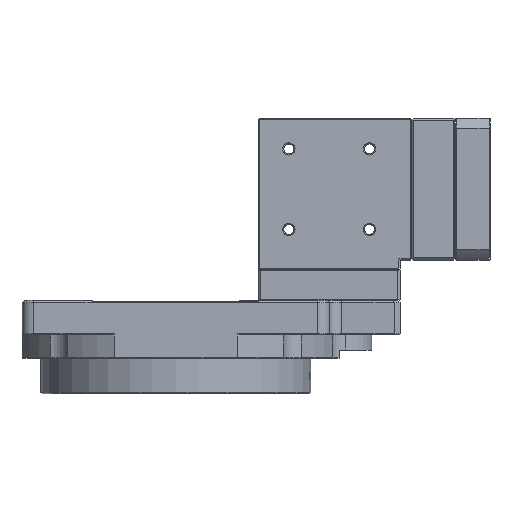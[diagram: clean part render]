
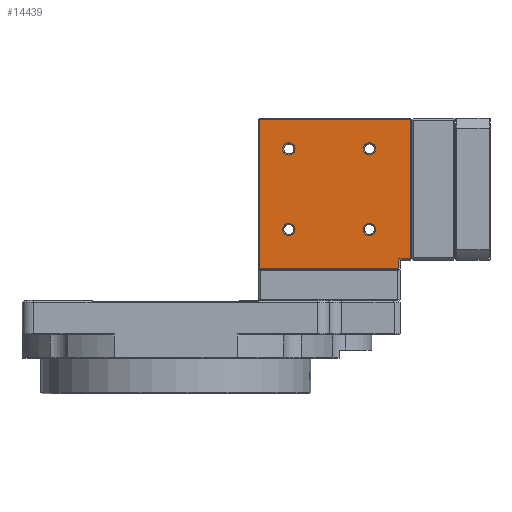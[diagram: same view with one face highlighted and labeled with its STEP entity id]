
A CAD part, left-side view. The second image highlights one B-rep face of the part: STEP entity #14439.
In plain terms, the highlighted planar face has unit normal (-1, 0, 0).
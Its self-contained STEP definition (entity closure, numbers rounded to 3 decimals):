
#13 = AXIS2_PLACEMENT_3D ( 'NONE', #13052, #19931, #1640 ) ;
#53 = DIRECTION ( 'NONE',  ( 0., 1., 0. ) ) ;
#391 = DIRECTION ( 'NONE',  ( 0., 1., 0. ) ) ;
#406 = DIRECTION ( 'NONE',  ( 0., -1., 0. ) ) ;
#567 = CARTESIAN_POINT ( 'NONE',  ( -30., -99.8, 76.5 ) ) ;
#1640 = DIRECTION ( 'NONE',  ( 0., 1., 0. ) ) ;
#2290 = CARTESIAN_POINT ( 'NONE',  ( -30., -79.2, 30. ) ) ;
#2377 = CARTESIAN_POINT ( 'NONE',  ( -30., -99.8, 77. ) ) ;
#2458 = DIRECTION ( 'NONE',  ( 0., 1., 0. ) ) ;
#2699 = EDGE_LOOP ( 'NONE', ( #17598, #14744 ) ) ;
#2714 = DIRECTION ( 'NONE',  ( 1., 0., 0. ) ) ;
#3576 = LINE ( 'NONE', #21336, #3905 ) ;
#3757 = LINE ( 'NONE', #7992, #6672 ) ;
#3905 = VECTOR ( 'NONE', #13127, 1000. ) ;
#4063 = VERTEX_POINT ( 'NONE', #22899 ) ;
#4441 = CARTESIAN_POINT ( 'NONE',  ( -30., -47.8, 30. ) ) ;
#4504 = CARTESIAN_POINT ( 'NONE',  ( -30., -79.2, 64. ) ) ;
#4734 = CIRCLE ( 'NONE', #19565, 2.6 ) ;
#4744 = PLANE ( 'NONE',  #24525 ) ;
#5010 = FACE_BOUND ( 'NONE', #2699, .T. ) ;
#5206 = EDGE_CURVE ( 'NONE', #15760, #25074, #17625, .T. ) ;
#5245 = EDGE_CURVE ( 'NONE', #5959, #18349, #13820, .T. ) ;
#5603 = EDGE_LOOP ( 'NONE', ( #23031, #23712 ) ) ;
#5959 = VERTEX_POINT ( 'NONE', #7374 ) ;
#6051 = EDGE_CURVE ( 'NONE', #19613, #16126, #25912, .T. ) ;
#6143 = DIRECTION ( 'NONE',  ( 0., 1., 0. ) ) ;
#6469 = ORIENTED_EDGE ( 'NONE', *, *, #7689, .T. ) ;
#6671 = ORIENTED_EDGE ( 'NONE', *, *, #10053, .T. ) ;
#6672 = VECTOR ( 'NONE', #11843, 1000. ) ;
#6865 = FACE_BOUND ( 'NONE', #5603, .T. ) ;
#7374 = CARTESIAN_POINT ( 'NONE',  ( -30., -45.2, 64. ) ) ;
#7537 = VECTOR ( 'NONE', #25234, 1000. ) ;
#7689 = EDGE_CURVE ( 'NONE', #4063, #24236, #24295, .T. ) ;
#7760 = CARTESIAN_POINT ( 'NONE',  ( -30., -94.8, 13.5 ) ) ;
#7992 = CARTESIAN_POINT ( 'NONE',  ( -30., -94.3, 17. ) ) ;
#8509 = ORIENTED_EDGE ( 'NONE', *, *, #5245, .T. ) ;
#9030 = CARTESIAN_POINT ( 'NONE',  ( -30., -99.3, 17.5 ) ) ;
#9585 = VERTEX_POINT ( 'NONE', #2290 ) ;
#9662 = EDGE_LOOP ( 'NONE', ( #10940, #23375 ) ) ;
#9767 = VERTEX_POINT ( 'NONE', #9030 ) ;
#10053 = EDGE_CURVE ( 'NONE', #10435, #9767, #12598, .T. ) ;
#10435 = VERTEX_POINT ( 'NONE', #22358 ) ;
#10557 = DIRECTION ( 'NONE',  ( 1., 0., 0. ) ) ;
#10940 = ORIENTED_EDGE ( 'NONE', *, *, #24991, .T. ) ;
#11307 = VERTEX_POINT ( 'NONE', #4504 ) ;
#11807 = CARTESIAN_POINT ( 'NONE',  ( -30., -84.4, 64. ) ) ;
#11843 = DIRECTION ( 'NONE',  ( 0., 0., 1. ) ) ;
#11869 = CIRCLE ( 'NONE', #13, 2.6 ) ;
#11877 = DIRECTION ( 'NONE',  ( 0., -1., 0. ) ) ;
#12589 = CARTESIAN_POINT ( 'NONE',  ( -30., -81.8, 30. ) ) ;
#12598 = LINE ( 'NONE', #22523, #23937 ) ;
#12947 = EDGE_CURVE ( 'NONE', #9767, #4063, #3576, .T. ) ;
#13052 = CARTESIAN_POINT ( 'NONE',  ( -30., -81.8, 64. ) ) ;
#13104 = DIRECTION ( 'NONE',  ( 1., 0., 0. ) ) ;
#13127 = DIRECTION ( 'NONE',  ( 0., 0., 1. ) ) ;
#13383 = ORIENTED_EDGE ( 'NONE', *, *, #22956, .T. ) ;
#13386 = VECTOR ( 'NONE', #11877, 1000. ) ;
#13648 = EDGE_LOOP ( 'NONE', ( #8509, #14393 ) ) ;
#13820 = CIRCLE ( 'NONE', #21792, 2.6 ) ;
#14393 = ORIENTED_EDGE ( 'NONE', *, *, #18530, .T. ) ;
#14439 = ADVANCED_FACE ( 'NONE', ( #14814, #25020, #6865, #5010, #23166 ), #4744, .T. ) ;
#14455 = DIRECTION ( 'NONE',  ( 0., 1., 0. ) ) ;
#14701 = CARTESIAN_POINT ( 'NONE',  ( -30., -81.8, 30. ) ) ;
#14744 = ORIENTED_EDGE ( 'NONE', *, *, #19118, .T. ) ;
#14814 = FACE_BOUND ( 'NONE', #9662, .T. ) ;
#14861 = EDGE_CURVE ( 'NONE', #17693, #11307, #25414, .T. ) ;
#15258 = AXIS2_PLACEMENT_3D ( 'NONE', #22603, #10557, #18653 ) ;
#15708 = EDGE_CURVE ( 'NONE', #9585, #22089, #24107, .T. ) ;
#15760 = VERTEX_POINT ( 'NONE', #19462 ) ;
#15871 = AXIS2_PLACEMENT_3D ( 'NONE', #20274, #16031, #20143 ) ;
#15905 = CARTESIAN_POINT ( 'NONE',  ( -30., -47.8, 64. ) ) ;
#16031 = DIRECTION ( 'NONE',  ( 1., 0., 0. ) ) ;
#16126 = VERTEX_POINT ( 'NONE', #20537 ) ;
#16818 = DIRECTION ( 'NONE',  ( 1., 0., 0. ) ) ;
#17147 = CARTESIAN_POINT ( 'NONE',  ( -30., -35.3, 13. ) ) ;
#17598 = ORIENTED_EDGE ( 'NONE', *, *, #15708, .T. ) ;
#17625 = CIRCLE ( 'NONE', #15871, 2.6 ) ;
#17693 = VERTEX_POINT ( 'NONE', #11807 ) ;
#17945 = CARTESIAN_POINT ( 'NONE',  ( -30., -45.2, 30. ) ) ;
#18007 = CARTESIAN_POINT ( 'NONE',  ( -30., -35.3, 76.5 ) ) ;
#18199 = EDGE_CURVE ( 'NONE', #25074, #15760, #18308, .T. ) ;
#18297 = EDGE_LOOP ( 'NONE', ( #22311, #23293, #6671, #25803, #6469, #13383 ) ) ;
#18308 = CIRCLE ( 'NONE', #18731, 2.6 ) ;
#18340 = CIRCLE ( 'NONE', #22986, 2.6 ) ;
#18349 = VERTEX_POINT ( 'NONE', #19407 ) ;
#18530 = EDGE_CURVE ( 'NONE', #18349, #5959, #4734, .T. ) ;
#18653 = DIRECTION ( 'NONE',  ( 0., 1., 0. ) ) ;
#18731 = AXIS2_PLACEMENT_3D ( 'NONE', #4441, #2714, #2458 ) ;
#19118 = EDGE_CURVE ( 'NONE', #22089, #9585, #18340, .T. ) ;
#19407 = CARTESIAN_POINT ( 'NONE',  ( -30., -50.4, 64. ) ) ;
#19462 = CARTESIAN_POINT ( 'NONE',  ( -30., -50.4, 30. ) ) ;
#19565 = AXIS2_PLACEMENT_3D ( 'NONE', #19804, #24296, #6143 ) ;
#19613 = VERTEX_POINT ( 'NONE', #22042 ) ;
#19804 = CARTESIAN_POINT ( 'NONE',  ( -30., -47.8, 64. ) ) ;
#19931 = DIRECTION ( 'NONE',  ( 1., 0., 0. ) ) ;
#20143 = DIRECTION ( 'NONE',  ( 0., 1., 0. ) ) ;
#20274 = CARTESIAN_POINT ( 'NONE',  ( -30., -47.8, 30. ) ) ;
#20537 = CARTESIAN_POINT ( 'NONE',  ( -30., -94.3, 13.5 ) ) ;
#20789 = DIRECTION ( 'NONE',  ( 0., 1., 0. ) ) ;
#20908 = DIRECTION ( 'NONE',  ( -1., 0., 0. ) ) ;
#21336 = CARTESIAN_POINT ( 'NONE',  ( -30., -99.3, 77. ) ) ;
#21792 = AXIS2_PLACEMENT_3D ( 'NONE', #15905, #23853, #21988 ) ;
#21988 = DIRECTION ( 'NONE',  ( 0., 1., 0. ) ) ;
#22042 = CARTESIAN_POINT ( 'NONE',  ( -30., -35.3, 13.5 ) ) ;
#22089 = VERTEX_POINT ( 'NONE', #22908 ) ;
#22311 = ORIENTED_EDGE ( 'NONE', *, *, #6051, .T. ) ;
#22358 = CARTESIAN_POINT ( 'NONE',  ( -30., -94.3, 17.5 ) ) ;
#22523 = CARTESIAN_POINT ( 'NONE',  ( -30., -99.8, 17.5 ) ) ;
#22603 = CARTESIAN_POINT ( 'NONE',  ( -30., -81.8, 64. ) ) ;
#22826 = AXIS2_PLACEMENT_3D ( 'NONE', #12589, #13104, #20789 ) ;
#22838 = LINE ( 'NONE', #17147, #7537 ) ;
#22899 = CARTESIAN_POINT ( 'NONE',  ( -30., -99.3, 76.5 ) ) ;
#22908 = CARTESIAN_POINT ( 'NONE',  ( -30., -84.4, 30. ) ) ;
#22956 = EDGE_CURVE ( 'NONE', #24236, #19613, #22838, .T. ) ;
#22986 = AXIS2_PLACEMENT_3D ( 'NONE', #14701, #16818, #14455 ) ;
#23031 = ORIENTED_EDGE ( 'NONE', *, *, #18199, .T. ) ;
#23156 = EDGE_CURVE ( 'NONE', #16126, #10435, #3757, .T. ) ;
#23166 = FACE_OUTER_BOUND ( 'NONE', #18297, .T. ) ;
#23293 = ORIENTED_EDGE ( 'NONE', *, *, #23156, .T. ) ;
#23375 = ORIENTED_EDGE ( 'NONE', *, *, #14861, .T. ) ;
#23712 = ORIENTED_EDGE ( 'NONE', *, *, #5206, .T. ) ;
#23853 = DIRECTION ( 'NONE',  ( 1., 0., 0. ) ) ;
#23937 = VECTOR ( 'NONE', #406, 1000. ) ;
#24107 = CIRCLE ( 'NONE', #22826, 2.6 ) ;
#24236 = VERTEX_POINT ( 'NONE', #18007 ) ;
#24295 = LINE ( 'NONE', #567, #25823 ) ;
#24296 = DIRECTION ( 'NONE',  ( 1., 0., 0. ) ) ;
#24525 = AXIS2_PLACEMENT_3D ( 'NONE', #2377, #20908, #391 ) ;
#24991 = EDGE_CURVE ( 'NONE', #11307, #17693, #11869, .T. ) ;
#25020 = FACE_BOUND ( 'NONE', #13648, .T. ) ;
#25074 = VERTEX_POINT ( 'NONE', #17945 ) ;
#25234 = DIRECTION ( 'NONE',  ( 0., 0., -1. ) ) ;
#25414 = CIRCLE ( 'NONE', #15258, 2.6 ) ;
#25803 = ORIENTED_EDGE ( 'NONE', *, *, #12947, .T. ) ;
#25823 = VECTOR ( 'NONE', #53, 1000. ) ;
#25912 = LINE ( 'NONE', #7760, #13386 ) ;
